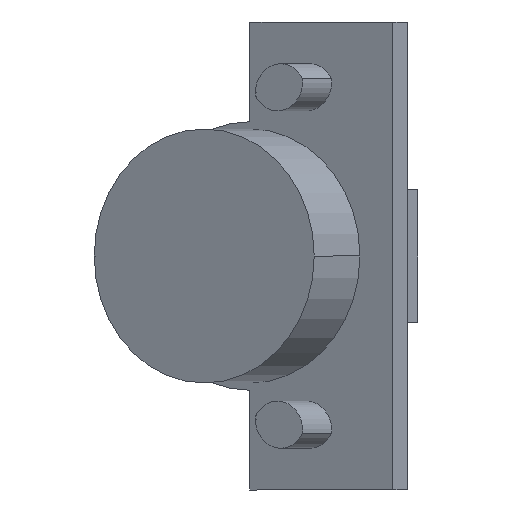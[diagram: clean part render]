
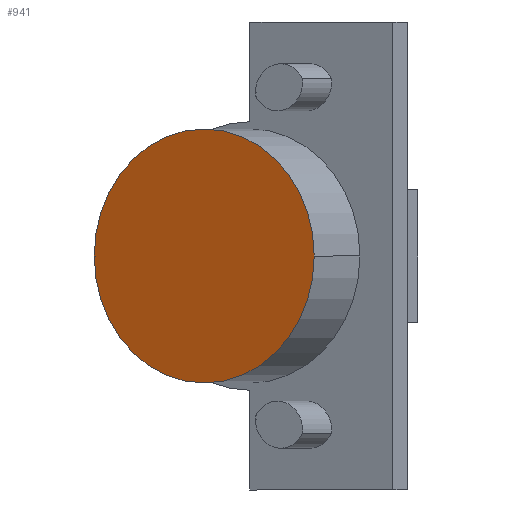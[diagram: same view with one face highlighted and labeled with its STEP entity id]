
A CAD part, front view. The second image highlights one B-rep face of the part: STEP entity #941.
In plain terms, the highlighted planar face has unit normal (-0.5, -0.866, 0).
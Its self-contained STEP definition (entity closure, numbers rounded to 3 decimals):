
#25 = CARTESIAN_POINT ( 'NONE',  ( 11.542, -56.762, 0. ) ) ;
#97 = DIRECTION ( 'NONE',  ( 0.866, -0.5, 0. ) ) ;
#180 = PLANE ( 'NONE',  #1570 ) ;
#221 = CIRCLE ( 'NONE', #1310, 17.5 ) ;
#231 = EDGE_LOOP ( 'NONE', ( #1009, #1507 ) ) ;
#241 = FACE_OUTER_BOUND ( 'NONE', #231, .T. ) ;
#432 = CARTESIAN_POINT ( 'NONE',  ( -3.613, -48.012, 0. ) ) ;
#492 = CARTESIAN_POINT ( 'NONE',  ( -3.613, -48.012, 0. ) ) ;
#744 = DIRECTION ( 'NONE',  ( 0.866, -0.5, 0. ) ) ;
#915 = CIRCLE ( 'NONE', #1283, 17.5 ) ;
#941 = ADVANCED_FACE ( 'NONE', ( #241 ), #180, .T. ) ;
#996 = DIRECTION ( 'NONE',  ( -0.5, -0.866, 0. ) ) ;
#1009 = ORIENTED_EDGE ( 'NONE', *, *, #1459, .T. ) ;
#1169 = VERTEX_POINT ( 'NONE', #1422 ) ;
#1283 = AXIS2_PLACEMENT_3D ( 'NONE', #1591, #996, #1357 ) ;
#1310 = AXIS2_PLACEMENT_3D ( 'NONE', #492, #1606, #744 ) ;
#1357 = DIRECTION ( 'NONE',  ( 0.866, -0.5, 0. ) ) ;
#1364 = EDGE_CURVE ( 'NONE', #1548, #1169, #915, .T. ) ;
#1422 = CARTESIAN_POINT ( 'NONE',  ( -18.768, -39.262, 0. ) ) ;
#1459 = EDGE_CURVE ( 'NONE', #1169, #1548, #221, .T. ) ;
#1507 = ORIENTED_EDGE ( 'NONE', *, *, #1364, .T. ) ;
#1541 = DIRECTION ( 'NONE',  ( -0.5, -0.866, 0. ) ) ;
#1548 = VERTEX_POINT ( 'NONE', #25 ) ;
#1570 = AXIS2_PLACEMENT_3D ( 'NONE', #432, #1541, #97 ) ;
#1591 = CARTESIAN_POINT ( 'NONE',  ( -3.613, -48.012, 0. ) ) ;
#1606 = DIRECTION ( 'NONE',  ( -0.5, -0.866, 0. ) ) ;
